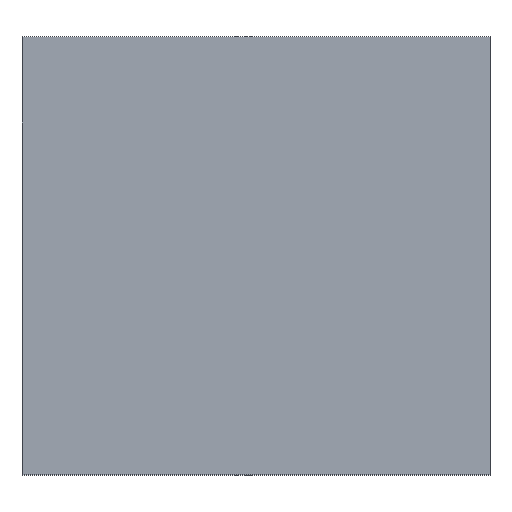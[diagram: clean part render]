
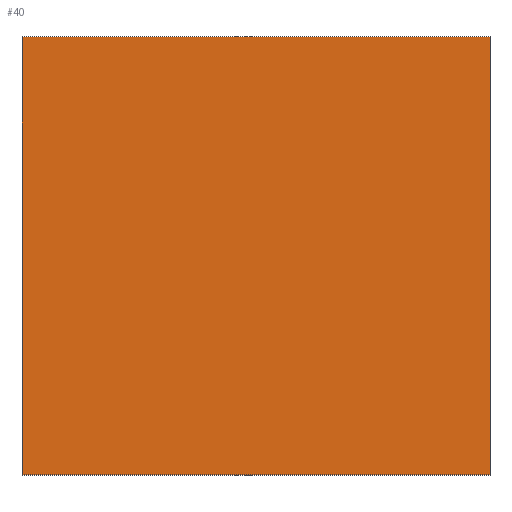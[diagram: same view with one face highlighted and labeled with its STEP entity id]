
A CAD part, top view. The second image highlights one B-rep face of the part: STEP entity #40.
In plain terms, the highlighted planar face has unit normal (0, 0, 1).
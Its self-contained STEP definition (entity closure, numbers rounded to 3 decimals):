
#40 = ADVANCED_FACE( '', ( #74 ), #75, .T. );
#74 = FACE_OUTER_BOUND( '', #99, .T. );
#75 = PLANE( '', #100 );
#99 = EDGE_LOOP( '', ( #143, #144, #145, #146 ) );
#100 = AXIS2_PLACEMENT_3D( '', #147, #148, #149 );
#143 = ORIENTED_EDGE( '', *, *, #153, .T. );
#144 = ORIENTED_EDGE( '', *, *, #161, .T. );
#145 = ORIENTED_EDGE( '', *, *, #166, .T. );
#146 = ORIENTED_EDGE( '', *, *, #163, .T. );
#147 = CARTESIAN_POINT( '', ( -45.568, -21.12, 44.45 ) );
#148 = DIRECTION( '', ( 0., 0., 1. ) );
#149 = DIRECTION( '', ( 1., 0., 0. ) );
#153 = EDGE_CURVE( '', #174, #172, #175, .T. );
#161 = EDGE_CURVE( '', #172, #184, #186, .T. );
#163 = EDGE_CURVE( '', #188, #174, #189, .T. );
#166 = EDGE_CURVE( '', #184, #188, #192, .T. );
#172 = VERTEX_POINT( '', #199 );
#174 = VERTEX_POINT( '', #202 );
#175 = LINE( '', #203, #204 );
#184 = VERTEX_POINT( '', #217 );
#186 = LINE( '', #220, #221 );
#188 = VERTEX_POINT( '', #223 );
#189 = LINE( '', #224, #225 );
#192 = LINE( '', #229, #230 );
#199 = CARTESIAN_POINT( '', ( -45.568, -21.12, 44.45 ) );
#202 = CARTESIAN_POINT( '', ( -45.568, 45.696, 44.45 ) );
#203 = CARTESIAN_POINT( '', ( -45.568, 45.696, 44.45 ) );
#204 = VECTOR( '', #234, 1000. );
#217 = CARTESIAN_POINT( '', ( 25.856, -21.12, 44.45 ) );
#220 = CARTESIAN_POINT( '', ( -45.568, -21.12, 44.45 ) );
#221 = VECTOR( '', #240, 1000. );
#223 = CARTESIAN_POINT( '', ( 25.856, 45.696, 44.45 ) );
#224 = CARTESIAN_POINT( '', ( 25.856, 45.696, 44.45 ) );
#225 = VECTOR( '', #241, 1000. );
#229 = CARTESIAN_POINT( '', ( 25.856, -21.12, 44.45 ) );
#230 = VECTOR( '', #243, 1000. );
#234 = DIRECTION( '', ( 0., -1., 0. ) );
#240 = DIRECTION( '', ( 1., 0., 0. ) );
#241 = DIRECTION( '', ( -1., 0., 0. ) );
#243 = DIRECTION( '', ( 0., 1., 0. ) );
